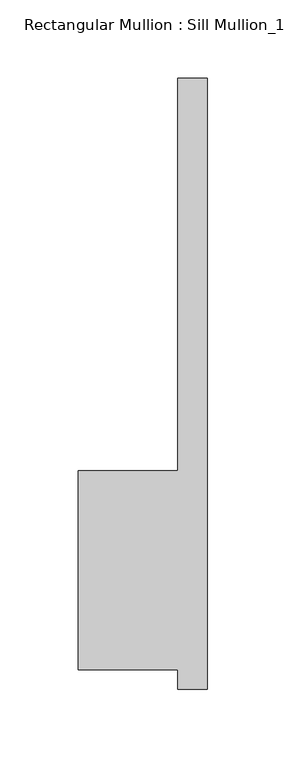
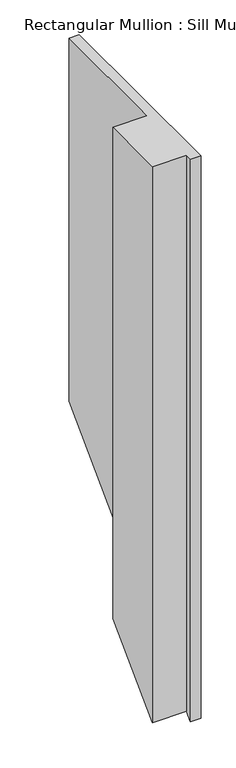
"""IFC4 building model written with IfcOpenShell, lengths in millimetres: member geometry."""

from ifc_helpers import new_model, si_unit, origin, place, context, project, spatial, faceted_brep, source, transform, mapped, element, save


def member_be9f9184(model_context):
    return source(origin(), model_context, "Body", "Brep", [
        faceted_brep([(-82.55, 50.8, 0.0), (-82.55, -76.2, 0.0), (-19.05, -76.2, 0.0), (-19.05, -88.9, 0.0), (0.0, -88.9, 0.0), (0.0, 301.625, 0.0), (-19.05, 301.625, 0.0), (-19.05, 50.8, 0.0), (-82.55, 50.8, -962.025), (-82.55, -76.2, -1089.025), (-19.05, -76.2, -1089.025), (-19.05, -88.9, -1101.725), (0.0, -88.9, -1101.725), (0.0, 301.625, -711.2), (-19.05, 301.625, -711.2), (-19.05, 50.8, -962.025)], [[[0, 1, 2, 3, 4, 5, 6, 7]], [[1, 0, 8, 9]], [[2, 1, 9, 10]], [[3, 2, 10, 11]], [[4, 3, 11, 12]], [[5, 4, 12, 13]], [[6, 5, 13, 14]], [[7, 6, 14, 15]], [[0, 7, 15, 8]], [[8, 15, 14, 13, 12, 11, 10, 9]]]),
    ])


if __name__ == "__main__":
    model = new_model("IFC4")
    model_context = context("Model", 3, world=origin())
    ifc_project = project(units=[si_unit("LENGTHUNIT", "METRE", prefix="MILLI")], contexts=[model_context])
    site = spatial("IfcSite", under=ifc_project)
    building = spatial("IfcBuilding", under=site)
    placement = place(None, origin())
    member_shape = member_be9f9184(model_context)
    element("IfcMember", 1, ObjectType="Rectangular Mullion : Sill Mullion_15\" thick wall", at=placement, inside=building, context=model_context, shape_type="MappedRepresentation", body=[
        mapped(member_shape, transform((0.0, 0.0, 0.0), x_axis=(1.0, 0.0, 0.0), y_axis=(0.0, 1.0, 0.0), z_axis=(0.0, 0.0, 1.0))),
    ])
    save(model, "model.ifc")
